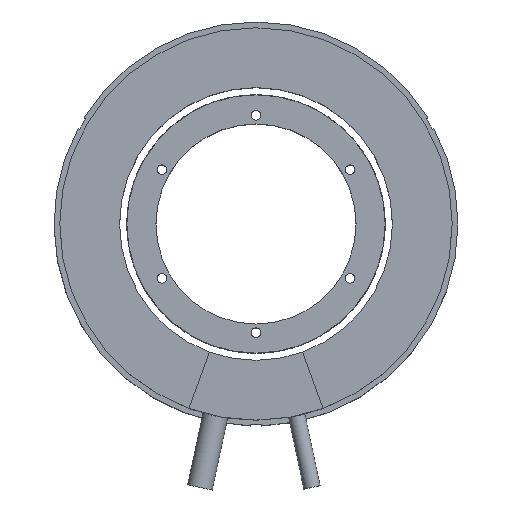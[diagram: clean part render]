
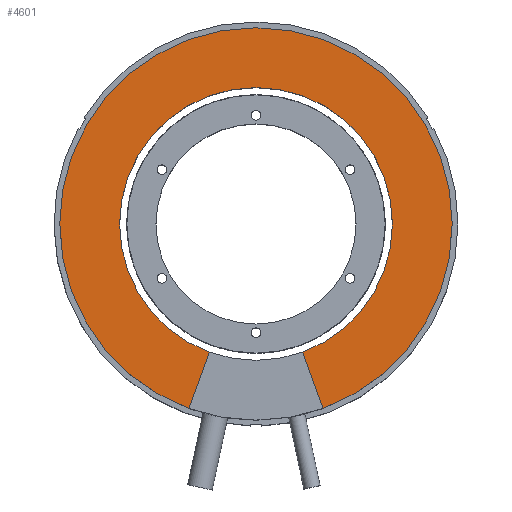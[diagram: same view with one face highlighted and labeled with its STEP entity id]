
A CAD part, top view. The second image highlights one B-rep face of the part: STEP entity #4601.
In plain terms, the highlighted planar face has unit normal (0, 0, 1).
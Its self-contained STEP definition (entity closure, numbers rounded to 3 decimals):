
#14 = CARTESIAN_POINT ( 'NONE',  ( 35.45, 0., 34. ) ) ;
#84 = ORIENTED_EDGE ( 'NONE', *, *, #569, .F. ) ;
#119 = ORIENTED_EDGE ( 'NONE', *, *, #5696, .T. ) ;
#125 = DIRECTION ( 'NONE',  ( 1., 0., 0. ) ) ;
#152 = CIRCLE ( 'NONE', #2172, 35.45 ) ;
#182 = ORIENTED_EDGE ( 'NONE', *, *, #593, .F. ) ;
#228 = CARTESIAN_POINT ( 'NONE',  ( -12.125, -33.312, 34. ) ) ;
#395 = VERTEX_POINT ( 'NONE', #228 ) ;
#414 = CARTESIAN_POINT ( 'NONE',  ( 0., 0., 34. ) ) ;
#569 = EDGE_CURVE ( 'NONE', #1125, #395, #1223, .T. ) ;
#575 = VERTEX_POINT ( 'NONE', #4103 ) ;
#577 = DIRECTION ( 'NONE',  ( 0., 0., 1. ) ) ;
#593 = EDGE_CURVE ( 'NONE', #395, #5114, #804, .T. ) ;
#694 = DIRECTION ( 'NONE',  ( 1., 0., 0. ) ) ;
#719 = AXIS2_PLACEMENT_3D ( 'NONE', #414, #4053, #3601 ) ;
#761 = AXIS2_PLACEMENT_3D ( 'NONE', #2153, #4534, #4020 ) ;
#774 = DIRECTION ( 'NONE',  ( -0.342, 0.94, 0. ) ) ;
#804 = LINE ( 'NONE', #2709, #4917 ) ;
#904 = CIRCLE ( 'NONE', #3620, 35.45 ) ;
#970 = EDGE_CURVE ( 'NONE', #5161, #5014, #1994, .T. ) ;
#1125 = VERTEX_POINT ( 'NONE', #2626 ) ;
#1223 = CIRCLE ( 'NONE', #761, 35.45 ) ;
#1378 = DIRECTION ( 'NONE',  ( -0.342, -0.94, 0. ) ) ;
#1409 = PLANE ( 'NONE',  #5362 ) ;
#1630 = ORIENTED_EDGE ( 'NONE', *, *, #3808, .F. ) ;
#1730 = CARTESIAN_POINT ( 'NONE',  ( -51., 0., 34. ) ) ;
#1849 = ORIENTED_EDGE ( 'NONE', *, *, #3624, .F. ) ;
#1935 = CARTESIAN_POINT ( 'NONE',  ( 51., 0., 34. ) ) ;
#1994 = CIRCLE ( 'NONE', #2582, 51. ) ;
#2153 = CARTESIAN_POINT ( 'NONE',  ( 0., 0., 34. ) ) ;
#2172 = AXIS2_PLACEMENT_3D ( 'NONE', #5923, #4151, #5473 ) ;
#2216 = DIRECTION ( 'NONE',  ( 0., 0., 1. ) ) ;
#2266 = CIRCLE ( 'NONE', #3344, 51. ) ;
#2305 = VERTEX_POINT ( 'NONE', #3341 ) ;
#2582 = AXIS2_PLACEMENT_3D ( 'NONE', #5653, #577, #3772 ) ;
#2626 = CARTESIAN_POINT ( 'NONE',  ( -35.45, 0., 34. ) ) ;
#2709 = CARTESIAN_POINT ( 'NONE',  ( -12.125, -33.312, 34. ) ) ;
#3307 = EDGE_CURVE ( 'NONE', #575, #2305, #152, .T. ) ;
#3341 = CARTESIAN_POINT ( 'NONE',  ( 35.45, 0., 34. ) ) ;
#3344 = AXIS2_PLACEMENT_3D ( 'NONE', #4341, #3372, #694 ) ;
#3372 = DIRECTION ( 'NONE',  ( 0., 0., 1. ) ) ;
#3513 = CARTESIAN_POINT ( 'NONE',  ( 17.443, -47.924, 34. ) ) ;
#3601 = DIRECTION ( 'NONE',  ( 1., 0., 0. ) ) ;
#3620 = AXIS2_PLACEMENT_3D ( 'NONE', #5574, #4194, #125 ) ;
#3624 = EDGE_CURVE ( 'NONE', #4428, #575, #4922, .T. ) ;
#3772 = DIRECTION ( 'NONE',  ( 1., 0., 0. ) ) ;
#3808 = EDGE_CURVE ( 'NONE', #2305, #1125, #904, .T. ) ;
#4020 = DIRECTION ( 'NONE',  ( 1., 0., 0. ) ) ;
#4053 = DIRECTION ( 'NONE',  ( 0., 0., 1. ) ) ;
#4103 = CARTESIAN_POINT ( 'NONE',  ( 12.125, -33.312, 34. ) ) ;
#4151 = DIRECTION ( 'NONE',  ( 0., 0., 1. ) ) ;
#4169 = FACE_OUTER_BOUND ( 'NONE', #4989, .T. ) ;
#4194 = DIRECTION ( 'NONE',  ( 0., 0., 1. ) ) ;
#4335 = ORIENTED_EDGE ( 'NONE', *, *, #970, .T. ) ;
#4341 = CARTESIAN_POINT ( 'NONE',  ( 0., 0., 34. ) ) ;
#4363 = ORIENTED_EDGE ( 'NONE', *, *, #3307, .F. ) ;
#4428 = VERTEX_POINT ( 'NONE', #3513 ) ;
#4534 = DIRECTION ( 'NONE',  ( 0., 0., 1. ) ) ;
#4583 = EDGE_CURVE ( 'NONE', #5014, #5114, #4973, .T. ) ;
#4601 = ADVANCED_FACE ( 'NONE', ( #4169 ), #1409, .T. ) ;
#4917 = VECTOR ( 'NONE', #1378, 1000. ) ;
#4922 = LINE ( 'NONE', #5853, #5538 ) ;
#4973 = CIRCLE ( 'NONE', #719, 51. ) ;
#4989 = EDGE_LOOP ( 'NONE', ( #1849, #119, #4335, #5039, #182, #84, #1630, #4363 ) ) ;
#5014 = VERTEX_POINT ( 'NONE', #1730 ) ;
#5039 = ORIENTED_EDGE ( 'NONE', *, *, #4583, .T. ) ;
#5114 = VERTEX_POINT ( 'NONE', #5515 ) ;
#5161 = VERTEX_POINT ( 'NONE', #1935 ) ;
#5362 = AXIS2_PLACEMENT_3D ( 'NONE', #14, #2216, #5550 ) ;
#5473 = DIRECTION ( 'NONE',  ( 1., 0., 0. ) ) ;
#5515 = CARTESIAN_POINT ( 'NONE',  ( -17.443, -47.924, 34. ) ) ;
#5538 = VECTOR ( 'NONE', #774, 1000. ) ;
#5550 = DIRECTION ( 'NONE',  ( 1., 0., 0. ) ) ;
#5574 = CARTESIAN_POINT ( 'NONE',  ( 0., 0., 34. ) ) ;
#5653 = CARTESIAN_POINT ( 'NONE',  ( 0., 0., 34. ) ) ;
#5696 = EDGE_CURVE ( 'NONE', #4428, #5161, #2266, .T. ) ;
#5853 = CARTESIAN_POINT ( 'NONE',  ( 12.125, -33.312, 34. ) ) ;
#5923 = CARTESIAN_POINT ( 'NONE',  ( 0., 0., 34. ) ) ;
